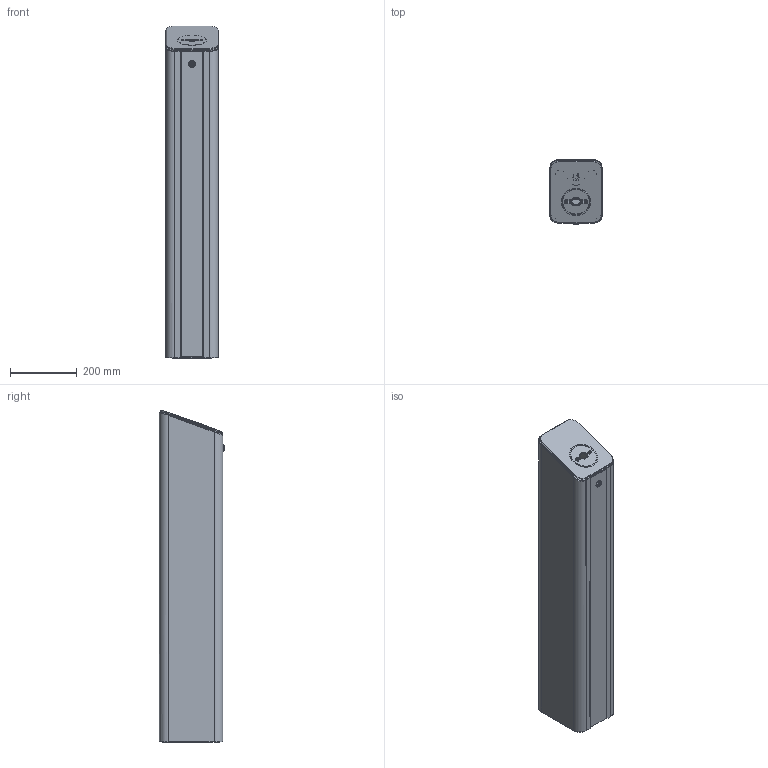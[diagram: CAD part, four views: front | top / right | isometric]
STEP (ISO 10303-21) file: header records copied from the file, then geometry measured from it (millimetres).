
FILE_DESCRIPTION(/* description */ ('Unknown'),/* implementation_level */ '2;1');
FILE_NAME(/* name */ 'IC05',/* time_stamp */ '2021-12-27T11:51:46+03:00',/* author */ ('Unknown'),/* organization */ ('Unknown'),/* preprocessor_version */ 'ST-DEVELOPER v18.1',/* originating_system */ 'Solid Edge',/* authorisation */ 'Unknown');
FILE_SCHEMA (('CONFIG_CONTROL_DESIGN'));
Length unit declared in the file: millimetre
Products named in the file (28): IC05; IC-05.061.00 昢膼瘔膻嬅oa_0; IC-05.061.01 ﾎ魵瑙韃; IC-05.011.00 扻豵鵨_oa_1; IC-05.010.04 砑僔蠂縺_oa_2; IC-05.010.01 Êîæóõ; IC-05.010.02 Êîæóõ; IC-05.090.00 腻疰囹咫黖oa_3; IC-05.081.00 扰鍙欙樥燲oa_4; IC-05.070.00 ﾊ濱oa_5; IC-05.030.01-02 ﾊ濱r1; IC-05.031.00 Êðûøêà â ñáîðå_oa_6; IC-05.030.00-01 ﾊ濱oa_7; IC-05.030.02-01 署赅; IC-05.029.00 鎚蠉瞃趌oa_8; IC-05.029.01 Âñòàâêà; IC-05.080.00 Èíäèêàöèÿ_oa_9; IC-05.700.00 Ïëàòà ïîäñâåòêè_oa_10; TTD10A.171.01 Âñòàâêà; Ëåíòà êëåéêàÿ 6 ìì VHB 5952; IC-05.040.00 扻艜樥翴禬oa_11; IC-05.050.00 秮鶋趌oa_12; IC-05.050.01 扻豂塺oa_13; IC-05.040.02 砑僔蠂縺; Çàìîê öèëèíäð. àðò 99032_oa_14; Çàìîê öèëèíäð. àðò 99032_êîðïóñ; Çàìîê öèëèíäð. àðò 99032_îñü; IC-05.900.00 忺摎錪 鴈儰罻灕醂oa_15
Assembly tree (27 placements, depth 5):
  IC05
    IC-05.061.00 昢膼瘔膻嬅oa_0
      IC-05.061.01 ﾎ魵瑙韃
    IC-05.011.00 扻豵鵨_oa_1
      IC-05.010.04 砑僔蠂縺_oa_2
      IC-05.010.01 Êîæóõ
      IC-05.010.02 Êîæóõ
      IC-05.090.00 腻疰囹咫黖oa_3
    IC-05.081.00 扰鍙欙樥燲oa_4
    IC-05.070.00 ﾊ濱oa_5
      IC-05.030.01-02 ﾊ濱r1
      IC-05.031.00 Êðûøêà â ñáîðå_oa_6
        IC-05.030.00-01 ﾊ濱oa_7
          IC-05.030.02-01 署赅
      IC-05.029.00 鎚蠉瞃趌oa_8
        IC-05.029.01 Âñòàâêà
      IC-05.080.00 Èíäèêàöèÿ_oa_9
        IC-05.700.00 Ïëàòà ïîäñâåòêè_oa_10
      TTD10A.171.01 Âñòàâêà
      Ëåíòà êëåéêàÿ 6 ìì VHB 5952
    IC-05.040.00 扻艜樥翴禬oa_11
      IC-05.050.00 秮鶋趌oa_12
        IC-05.050.01 扻豂塺oa_13
      IC-05.040.02 砑僔蠂縺
      Çàìîê öèëèíäð. àðò 99032_oa_14
        Çàìîê öèëèíäð. àðò 99032_êîðïóñ
        Çàìîê öèëèíäð. àðò 99032_îñü
    IC-05.900.00 忺摎錪 鴈儰罻灕醂oa_15
Bounding box: 157.1 x 195 x 992.37 mm (x, y, z)
Volume: 1423880.7 mm3; surface area: 1809190.9 mm2
Topology: 19 solids, 19 shells, 588 faces, 1608 edges, 1065 vertices
Faces by surface type: plane 339, cylinder 181, bspline 53, cone 14, torus 1
Full cylindrical faces by diameter (mm): 2.5 x2, 3.2 x26, 5.7 x1, 6.1 x4, 7 x2, 7.4 x1, 12 x4, 13 x2, 21.2 x1, 30 x1, 79 x1, 81 x1, 81.2 x1, 87 x1
Entity records: 19507 total; most frequent: CARTESIAN_POINT 3863, ORIENTED_EDGE 3038, DIRECTION 2934, EDGE_CURVE 1519, LINE 1034, VECTOR 1034, VERTEX_POINT 1029, AXIS2_PLACEMENT_3D 950
